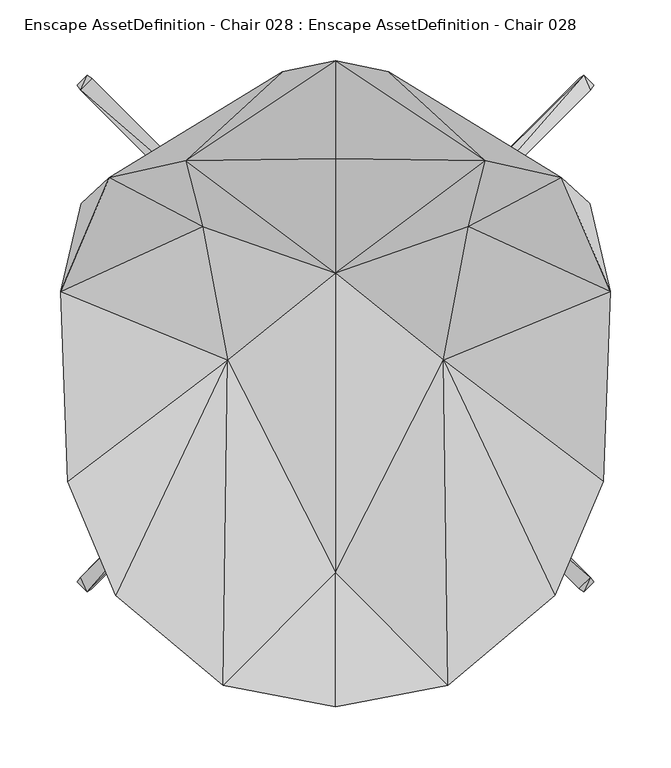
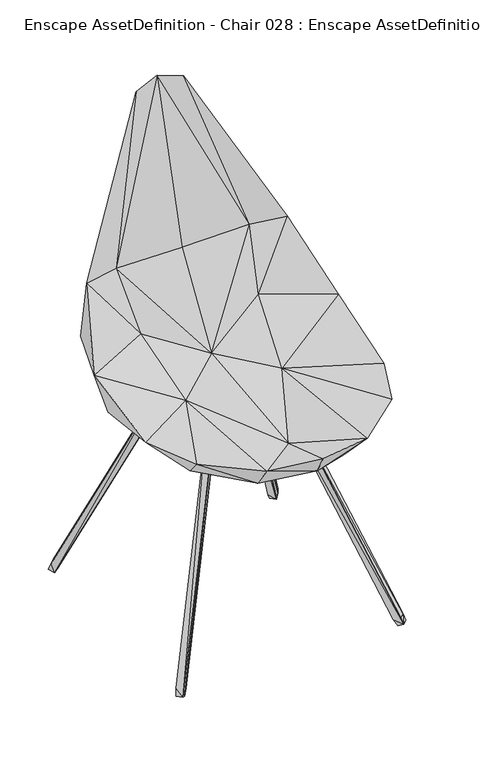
"""IFC4 building model written with IfcOpenShell, lengths in millimetres: geographic element geometry, Enscape AssetDefinition - Chair 028 : Enscape AssetDefinition - Chair 028."""

from ifc_helpers import new_model, si_unit, origin, place, context, project, spatial, faceted_brep, source, transform, mapped, element, save


def enscape_assetdefinition_chair_028_enscape_assetdefinition_7a4dbeed(model_context):
    return source(origin(), model_context, "Body", "Brep", [
        faceted_brep([(-80.1720023, -95.9959999, 394.0860033), (-62.4770001, -96.9230011, 388.3709908), (-71.7839971, -87.6109973, 388.3709908), (-70.8649978, -105.3069979, 394.0860033), (-205.0620019, -222.0769972, -2.475), (-191.7760074, -226.1639982, 8.9980001), (-197.0019937, -230.140999, -2.475), (-201.0830045, -216.8529928, 8.9980001), (-212.3260051, -229.3380052, 2.475), (-204.2659968, -237.402007, 2.475), (-200.1640052, -234.5490009, 14.7129996), (-209.4710022, -225.236997, 14.7129996)], [[[0, 1, 2]], [[3, 1, 0]], [[1, 4, 2]], [[5, 4, 1]], [[1, 6, 5]], [[3, 6, 1]], [[2, 4, 7]], [[2, 8, 0]], [[7, 8, 2]], [[8, 7, 4]], [[4, 5, 6]], [[4, 6, 9]], [[8, 4, 9]], [[10, 6, 3]], [[6, 10, 9]], [[3, 9, 10]], [[0, 9, 3]], [[11, 9, 0]], [[9, 11, 8]], [[0, 8, 11]]]),
        faceted_brep([(70.8649978, -105.3069979, 394.0860033), (71.7839971, -87.6109973, 388.3709908), (62.4770001, -96.9230011, 388.3709908), (80.1720023, -95.9959999, 394.0860033), (205.0620019, -222.0769972, -2.475), (201.0830045, -216.8529928, 8.9980001), (191.7760074, -226.1639982, 8.9980001), (204.2659968, -237.402007, 2.475), (209.4710022, -225.236997, 14.7129996), (200.1640052, -234.5490009, 14.7129996), (212.3260051, -229.3380052, 2.475), (197.0019937, -230.140999, -2.475)], [[[0, 1, 2]], [[3, 1, 0]], [[1, 4, 5]], [[3, 4, 1]], [[1, 6, 2]], [[5, 6, 1]], [[2, 7, 0]], [[6, 7, 2]], [[0, 8, 3]], [[9, 8, 0]], [[0, 7, 9]], [[8, 4, 3]], [[4, 8, 10]], [[7, 8, 9]], [[10, 8, 7]], [[11, 10, 7]], [[7, 6, 11]], [[4, 6, 5]], [[11, 6, 4]], [[4, 10, 11]]]),
        faceted_brep([(-70.8649978, 55.3070009, 394.0860033), (-71.7839971, 37.6110002, 388.3709908), (-62.4770001, 46.9230004, 388.3709908), (-80.1720023, 45.9959991, 394.0860033), (-205.0620019, 172.0770001, -2.475), (-201.0830045, 166.8529958, 8.9980001), (-191.7760074, 176.1640012, 8.9980001), (-204.2659968, 187.4019951, 2.475), (-209.4710022, 175.237, 14.7129996), (-200.1640052, 184.5490038, 14.7129996), (-212.3260051, 179.3379933, 2.475), (-197.0019937, 180.1410019, -2.475)], [[[0, 1, 2]], [[3, 1, 0]], [[1, 4, 5]], [[3, 4, 1]], [[1, 6, 2]], [[5, 6, 1]], [[2, 7, 0]], [[6, 7, 2]], [[0, 8, 3]], [[9, 8, 0]], [[0, 7, 9]], [[8, 4, 3]], [[4, 8, 10]], [[7, 8, 9]], [[10, 8, 7]], [[4, 10, 7]], [[11, 4, 7]], [[7, 6, 11]], [[4, 6, 5]], [[11, 6, 4]]]),
        faceted_brep([(80.1720023, 45.9959991, 394.0860033), (62.4770001, 46.9230004, 388.3709908), (71.7839971, 37.6110002, 388.3709908), (70.8649978, 55.3070009, 394.0860033), (197.0019937, 180.1410019, -2.475), (191.7760074, 176.1640012, 8.9980001), (205.0620019, 172.0770001, -2.475), (201.0830045, 166.8529958, 8.9980001), (212.3260051, 179.3379933, 2.475), (204.2659968, 187.4019951, 2.475), (200.1640052, 184.5490038, 14.7129996), (209.4710022, 175.237, 14.7129996)], [[[0, 1, 2]], [[3, 1, 0]], [[1, 4, 5]], [[3, 4, 1]], [[1, 6, 2]], [[5, 6, 1]], [[2, 6, 7]], [[2, 8, 0]], [[7, 8, 2]], [[4, 8, 6]], [[6, 5, 4]], [[8, 7, 6]], [[9, 8, 4]], [[10, 4, 3]], [[4, 10, 9]], [[3, 9, 10]], [[0, 9, 3]], [[11, 9, 0]], [[9, 11, 8]], [[0, 8, 11]]]),
        faceted_brep([(-131.6830069, 82.2670013, 408.6470008), (-104.6419963, 151.354, 534.4060063), (-57.5670004, 130.2880049, 418.9119935), (-185.9080046, 103.064999, 598.567009), (-209.0049982, 81.5759972, 516.3199902), (0.0, 185.1979941, 563.5709763), (-43.6290018, 190.2929991, 869.8499799), (-225.8490026, 9.5039997, 489.7669852), (-221.8990028, -28.2470006, 438.8720095), (-123.3090013, 117.1130016, 596.9529748), (-109.2099994, 62.9239976, 497.6209998), (0.0, 199.1129965, 880.892992), (0.0, 118.8630015, 594.0459967), (0.0, 24.7840006, 444.0110028), (-88.9030024, -46.8479991, 426.5680015), (-220.1890051, -146.4660019, 451.4459968), (-166.2430018, -24.9049999, 380.9880018), (-180.5649996, -240.4720038, 451.3399899), (-151.2420028, -168.0430025, 384.4859898), (-92.5669968, -314.0949905, 451.3880014), (0.0, -221.3640064, 417.1920121), (-79.3360025, -261.6400123, 391.8089867), (0.0, -183.3219975, 358.9519858), (-74.1309971, -37.1779986, 344.7439969), (74.1309971, -37.1779986, 344.7439969), (151.2420028, -168.0430025, 384.4859898), (79.3360025, -261.6400123, 391.8089867), (0.0, -314.0709996, 420.1779962), (180.5649996, -240.4720038, 451.3399899), (92.5669968, -314.0949905, 451.3880014), (166.2430018, -24.9049999, 380.9880018), (220.1890051, -146.4660019, 451.4459968), (88.9030024, -46.8479991, 426.5680015), (0.0, -331.7559958, 453.8649917), (109.2099994, 62.9239976, 497.6209998), (225.8490026, 9.5039997, 489.7669852), (221.8990028, -28.2470006, 438.8720095), (209.0049982, 81.5759972, 516.3199902), (185.9080046, 103.064999, 598.567009), (123.3090013, 117.1130016, 596.9529748), (43.6290018, 190.2929991, 869.8499799), (104.6419963, 151.354, 534.4060063), (131.6830069, 82.2670013, 408.6470008), (57.5670004, 130.2880049, 418.9119935)], [[[0, 1, 2]], [[3, 1, 4]], [[2, 1, 5]], [[6, 5, 1]], [[0, 4, 1]], [[1, 3, 6]], [[7, 3, 4]], [[7, 4, 8]], [[4, 0, 8]], [[3, 9, 6]], [[7, 10, 3]], [[3, 10, 9]], [[11, 5, 6]], [[9, 11, 6]], [[12, 11, 9]], [[9, 13, 12]], [[10, 13, 9]], [[10, 7, 14]], [[14, 13, 10]], [[7, 8, 15]], [[14, 7, 15]], [[16, 8, 0]], [[8, 16, 15]], [[17, 14, 15]], [[18, 15, 16]], [[18, 17, 15]], [[14, 19, 20]], [[19, 14, 17]], [[13, 14, 20]], [[21, 19, 17]], [[17, 18, 21]], [[18, 22, 21]], [[23, 18, 16]], [[18, 23, 22]], [[0, 23, 16]], [[23, 0, 2]], [[23, 2, 24]], [[24, 22, 23]], [[25, 22, 24]], [[26, 21, 22]], [[25, 26, 22]], [[19, 21, 27]], [[26, 27, 21]], [[26, 25, 28]], [[26, 28, 29]], [[27, 26, 29]], [[30, 25, 24]], [[28, 25, 31]], [[31, 25, 30]], [[28, 32, 29]], [[31, 32, 28]], [[27, 29, 33]], [[32, 20, 29]], [[29, 20, 33]], [[33, 19, 27]], [[20, 19, 33]], [[32, 13, 20]], [[34, 32, 35]], [[34, 13, 32]], [[35, 32, 31]], [[31, 30, 36]], [[36, 35, 31]], [[36, 37, 35]], [[37, 38, 35]], [[34, 35, 38]], [[34, 38, 39]], [[34, 39, 13]], [[13, 39, 12]], [[40, 39, 38]], [[11, 39, 40]], [[12, 39, 11]], [[37, 41, 38]], [[40, 38, 41]], [[41, 37, 42]], [[36, 42, 37]], [[36, 30, 42]], [[43, 42, 24]], [[43, 41, 42]], [[30, 24, 42]], [[43, 5, 41]], [[5, 40, 41]], [[11, 40, 5]], [[5, 43, 2]], [[2, 43, 24]]]),
    ])


if __name__ == "__main__":
    model = new_model("IFC4")
    model_context = context("Model", 3, world=origin())
    ifc_project = project(units=[si_unit("LENGTHUNIT", "METRE", prefix="MILLI")], contexts=[model_context])
    site = spatial("IfcSite", under=ifc_project)
    building = spatial("IfcBuilding", under=site)
    placement = place(None, origin())
    enscape_assetdefinition_chair_028_enscape_assetdefinition_shape = enscape_assetdefinition_chair_028_enscape_assetdefinition_7a4dbeed(model_context)
    element("IfcGeographicElement", 1, ObjectType="Enscape AssetDefinition - Chair 028 : Enscape AssetDefinition - Chair 028", at=placement, inside=building, context=model_context, shape_type="MappedRepresentation", body=[
        mapped(enscape_assetdefinition_chair_028_enscape_assetdefinition_shape, transform((0.0, 0.0, 0.0), x_axis=(1.0, 0.0, 0.0), y_axis=(0.0, 1.0, 0.0), z_axis=(0.0, 0.0, 1.0))),
    ])
    save(model, "model.ifc")
